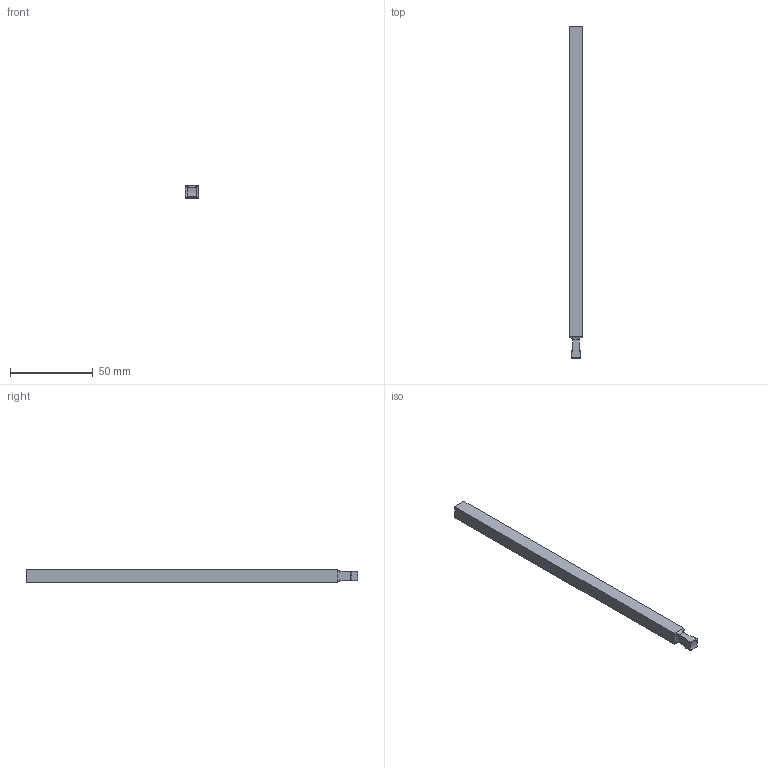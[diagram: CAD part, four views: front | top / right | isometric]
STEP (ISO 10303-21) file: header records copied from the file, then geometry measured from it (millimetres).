
FILE_DESCRIPTION (( 'STEP AP203' ), '1' );
FILE_NAME ('CBMMP8X8L200.step', '2025-04-18T17:50:07', ( '' ), ( '' ), 'SwSTEP 2.0', 'SolidWorks 2023', '' );
FILE_SCHEMA (( 'CONFIG_CONTROL_DESIGN' ));
Length unit declared in the file: millimetre
Products named in the file (1): CBMMP8X8L200
Bounding box: 8 x 200.31 x 8 mm (x, y, z)
Volume: 12364.3 mm3; surface area: 6409.5 mm2
Topology: 1 solids, 1 shells, 38 faces, 100 edges, 60 vertices
Faces by surface type: cylinder 13, plane 11, torus 10, sphere 4
Entity records: 1233 total; most frequent: CARTESIAN_POINT 255, DIRECTION 202, ORIENTED_EDGE 184, EDGE_CURVE 92, AXIS2_PLACEMENT_3D 83, VERTEX_POINT 56, CIRCLE 44, FACE_OUTER_BOUND 38
